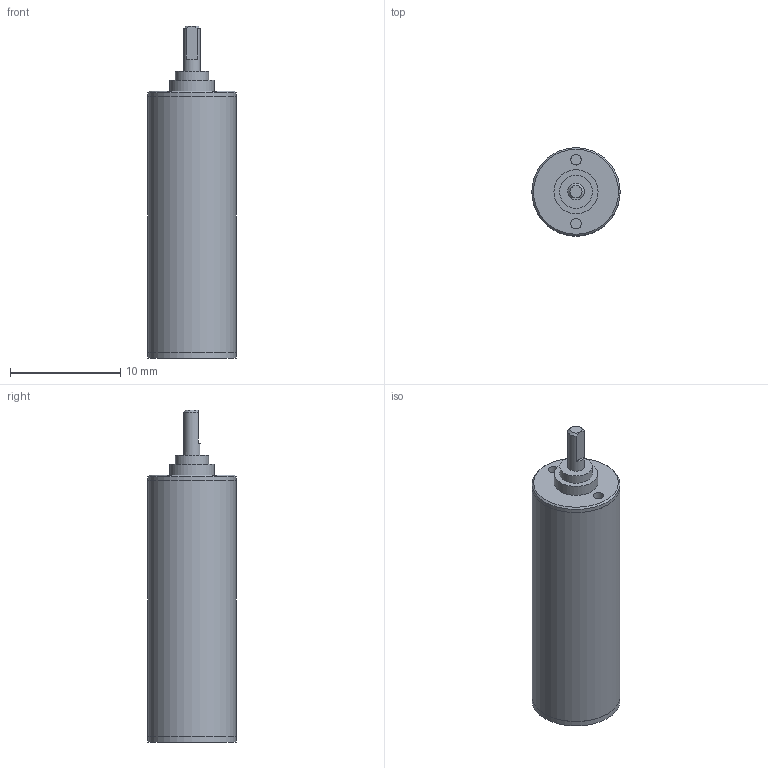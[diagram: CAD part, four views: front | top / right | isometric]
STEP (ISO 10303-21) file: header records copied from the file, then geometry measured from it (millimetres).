
FILE_DESCRIPTION(/* description */ (''),/* implementation_level */ '2;1');
FILE_NAME(/* name */ '08-2K_9.stp',/* time_stamp */ '2016-08-23T14:23:17+02:00',/* author */ ('DR. FRITZ FAULHABER GmbH & Co. KG'),/* organization */ ('DR. FRITZ FAULHABER GmbH & Co. KG'),/* preprocessor_version */ 'ST-DEVELOPER v16',/* originating_system */ 'SIEMENS PLM Software NX 10.0',/* authorisation */ '');
FILE_SCHEMA (('AUTOMOTIVE_DESIGN { 1 0 10303 214 3 1 1 1 }'));
Length unit declared in the file: millimetre
Products named in the file (1): H00000403_A
Bounding box: 8 x 8 x 30.1 mm (x, y, z)
Volume: 1170.3 mm3; surface area: 815.1 mm2
Topology: 1 solids, 1 shells, 33 faces, 56 edges, 37 vertices
Faces by surface type: plane 16, cylinder 14, cone 3
Full cylindrical faces by diameter (mm): 0.95 x2, 1.5 x1, 2.13 x1, 2.53 x1, 3 x1, 4 x1, 4.959 x1, 6 x1, 7.99 x2, 8 x3
Entity records: 709 total; most frequent: DIRECTION 133, CARTESIAN_POINT 115, ORIENTED_EDGE 72, AXIS2_PLACEMENT_3D 65, EDGE_LOOP 61, FACE_BOUND 54, EDGE_CURVE 36, ADVANCED_FACE 33
